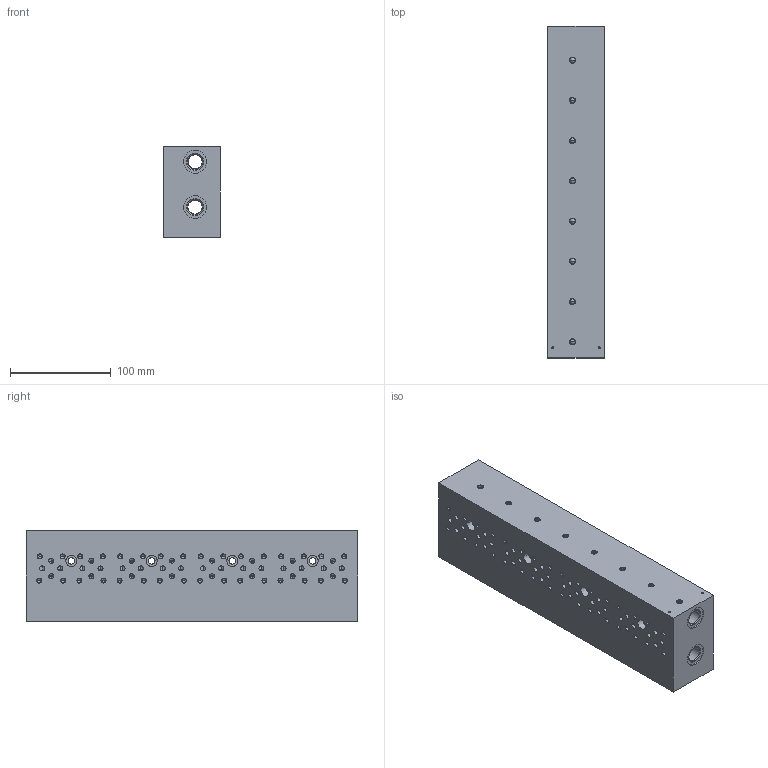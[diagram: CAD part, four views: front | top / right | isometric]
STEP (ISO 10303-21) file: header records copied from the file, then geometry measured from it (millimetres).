
FILE_DESCRIPTION((''),'2;1');
FILE_NAME('16106600_ASM','2018-10-17T',('l.soukupova'),(''),'PRO/ENGINEER BY PARAMETRIC TECHNOLOGY CORPORATION, 2015440','PRO/ENGINEER BY PARAMETRIC TECHNOLOGY CORPORATION, 2015440','');
FILE_SCHEMA(('AUTOMOTIVE_DESIGN { 1 0 10303 214 1 1 1 1 }'));
Products named in the file (3): 23704401; MB850_060E; 16106600_ASM
Assembly tree (17 placements, depth 2):
  16106600_ASM
    23704401
    MB850_060E  x16
Bounding box: 56 x 330 x 90 mm (x, y, z)
Volume: 1450831.7 mm3; surface area: 214625.6 mm2
Topology: 17 solids, 89 shells, 1465 faces, 4254 edges, 3114 vertices
Faces by surface type: cone 707, cylinder 592, plane 134, sphere 32
Entity records: 59229 total; most frequent: CARTESIAN_POINT 15256, DIRECTION 5963, ORIENTED_EDGE 4446, PRESENTATION_STYLE_ASSIGNMENT 4303, STYLED_ITEM 4301, CURVE_STYLE 3314, EDGE_CURVE 2367, AXIS2_PLACEMENT_3D 2282
